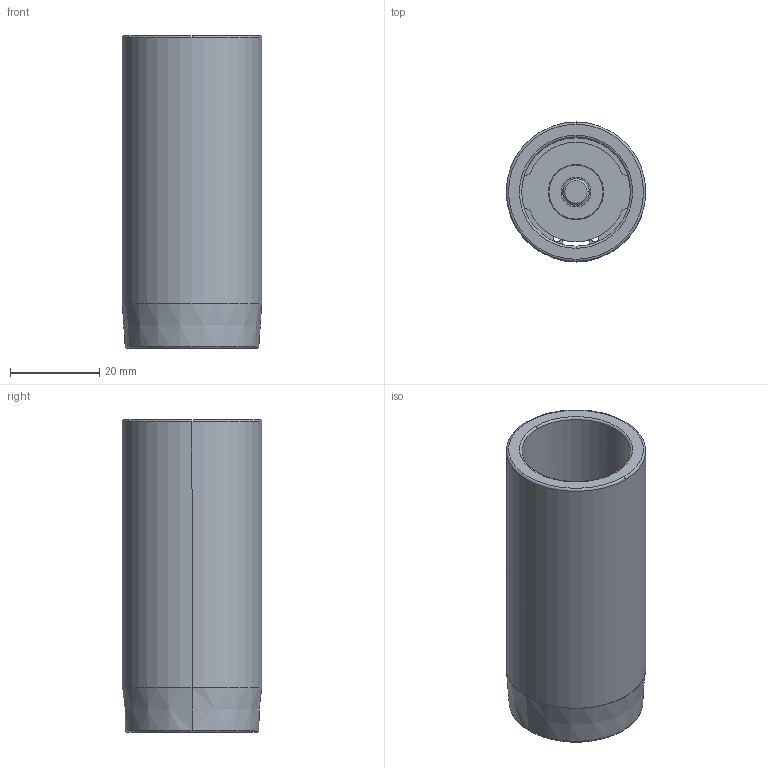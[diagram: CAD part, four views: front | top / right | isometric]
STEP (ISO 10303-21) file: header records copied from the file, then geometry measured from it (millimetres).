
FILE_DESCRIPTION((''),'2;1');
FILE_NAME('C12_024_070.stp','2009-01-28T08:29:48',(''),(''),'Mechanical Desktop 2009','Mechanical Desktop 2009',', , ');
FILE_SCHEMA(('CONFIG_CONTROL_DESIGN'));
Length unit declared in the file: millimetre
Products named in the file (2): Product; blmdl1
Assembly tree (1 placements, depth 2):
  Product
    blmdl1
Bounding box: 31.25 x 31.25 x 70 mm (x, y, z)
Volume: 22234.7 mm3; surface area: 15712.7 mm2
Topology: 5 solids, 5 shells, 79 faces, 200 edges, 134 vertices
Faces by surface type: cylinder 34, plane 29, torus 10, cone 6
Entity records: 2585 total; most frequent: DIRECTION 480, CARTESIAN_POINT 435, ORIENTED_EDGE 400, AXIS2_PLACEMENT_3D 203, EDGE_CURVE 200, VERTEX_POINT 134, CIRCLE 122, EDGE_LOOP 92
